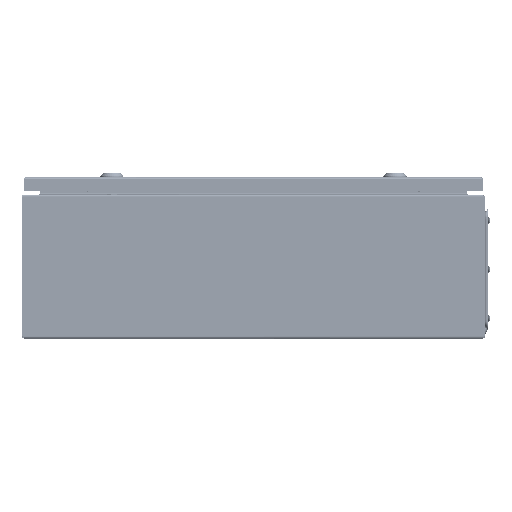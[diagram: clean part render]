
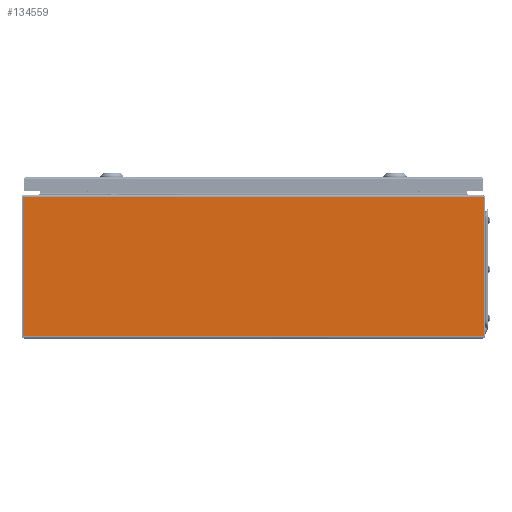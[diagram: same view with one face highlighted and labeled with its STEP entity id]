
A CAD part, left-side view. The second image highlights one B-rep face of the part: STEP entity #134559.
In plain terms, the highlighted planar face has unit normal (-1, 0, 0).
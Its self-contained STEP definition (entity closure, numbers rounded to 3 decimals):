
#2263 = VECTOR ( 'NONE', #13113, 1000. ) ;
#2727 = CARTESIAN_POINT ( 'NONE',  ( -200., 298.423, 183.85 ) ) ;
#3182 = CARTESIAN_POINT ( 'NONE',  ( -200., 298.529, 2.9 ) ) ;
#4216 = ORIENTED_EDGE ( 'NONE', *, *, #229450, .T. ) ;
#4519 = LINE ( 'NONE', #185996, #122102 ) ;
#5509 = DIRECTION ( 'NONE',  ( 0., 0., 1. ) ) ;
#6857 = EDGE_CURVE ( 'NONE', #234115, #132947, #39582, .T. ) ;
#7182 = CARTESIAN_POINT ( 'NONE',  ( -200., -298.529, 2.9 ) ) ;
#7630 = VERTEX_POINT ( 'NONE', #44802 ) ;
#13113 = DIRECTION ( 'NONE',  ( 0., 1., 0. ) ) ;
#14172 = ORIENTED_EDGE ( 'NONE', *, *, #113499, .F. ) ;
#23586 = EDGE_CURVE ( 'NONE', #130347, #139756, #227810, .T. ) ;
#24832 = EDGE_CURVE ( 'NONE', #189684, #234115, #221403, .T. ) ;
#27714 = VECTOR ( 'NONE', #187220, 1000. ) ;
#27828 = DIRECTION ( 'NONE',  ( 0., 0., -1. ) ) ;
#30150 = CARTESIAN_POINT ( 'NONE',  ( -200., 298.423, 2.9 ) ) ;
#33940 = CARTESIAN_POINT ( 'NONE',  ( -200., -3300., 183.85 ) ) ;
#35547 = VECTOR ( 'NONE', #37268, 1000. ) ;
#37268 = DIRECTION ( 'NONE',  ( 0., -1., 0. ) ) ;
#39582 = LINE ( 'NONE', #70571, #35547 ) ;
#42047 = PLANE ( 'NONE',  #231119 ) ;
#43432 = CARTESIAN_POINT ( 'NONE',  ( -200., -298.423, 183.85 ) ) ;
#44373 = DIRECTION ( 'NONE',  ( 1., 0., 0. ) ) ;
#44802 = CARTESIAN_POINT ( 'NONE',  ( -200., -298.423, 2.9 ) ) ;
#46429 = EDGE_LOOP ( 'NONE', ( #167835, #209493, #186269, #14172, #133723, #55482, #4216, #86291 ) ) ;
#48095 = LINE ( 'NONE', #95978, #27714 ) ;
#48446 = DIRECTION ( 'NONE',  ( 0., 1., 0. ) ) ;
#55482 = ORIENTED_EDGE ( 'NONE', *, *, #83870, .T. ) ;
#70571 = CARTESIAN_POINT ( 'NONE',  ( -200., 298.529, 183.85 ) ) ;
#79628 = VECTOR ( 'NONE', #107484, 1000. ) ;
#83870 = EDGE_CURVE ( 'NONE', #7630, #167771, #48095, .T. ) ;
#86291 = ORIENTED_EDGE ( 'NONE', *, *, #23586, .T. ) ;
#91222 = EDGE_CURVE ( 'NONE', #139756, #132947, #196355, .T. ) ;
#91415 = DIRECTION ( 'NONE',  ( 0., 1., 0. ) ) ;
#92406 = DIRECTION ( 'NONE',  ( 0., 0., 1. ) ) ;
#95490 = FACE_OUTER_BOUND ( 'NONE', #46429, .T. ) ;
#95978 = CARTESIAN_POINT ( 'NONE',  ( -200., -298.423, 2.9 ) ) ;
#97129 = VECTOR ( 'NONE', #5509, 1000. ) ;
#98612 = VERTEX_POINT ( 'NONE', #30150 ) ;
#103289 = CARTESIAN_POINT ( 'NONE',  ( -200., -298.529, 183.85 ) ) ;
#105368 = CARTESIAN_POINT ( 'NONE',  ( -200., 298.529, 183.85 ) ) ;
#107484 = DIRECTION ( 'NONE',  ( 0., 1., 0. ) ) ;
#113499 = EDGE_CURVE ( 'NONE', #98612, #189684, #207379, .T. ) ;
#120956 = CARTESIAN_POINT ( 'NONE',  ( -200., -298.529, 183.85 ) ) ;
#122102 = VECTOR ( 'NONE', #92406, 1000. ) ;
#130347 = VERTEX_POINT ( 'NONE', #120956 ) ;
#132947 = VERTEX_POINT ( 'NONE', #2727 ) ;
#133723 = ORIENTED_EDGE ( 'NONE', *, *, #197764, .F. ) ;
#134559 = ADVANCED_FACE ( 'NONE', ( #95490 ), #42047, .F. ) ;
#139756 = VERTEX_POINT ( 'NONE', #43432 ) ;
#148239 = CARTESIAN_POINT ( 'NONE',  ( -200., -3300., 2.9 ) ) ;
#161288 = CARTESIAN_POINT ( 'NONE',  ( -200., 298.529, 2.9 ) ) ;
#167771 = VERTEX_POINT ( 'NONE', #7182 ) ;
#167835 = ORIENTED_EDGE ( 'NONE', *, *, #91222, .T. ) ;
#185996 = CARTESIAN_POINT ( 'NONE',  ( -200., -298.529, 2.9 ) ) ;
#186269 = ORIENTED_EDGE ( 'NONE', *, *, #24832, .F. ) ;
#187220 = DIRECTION ( 'NONE',  ( 0., -1., 0. ) ) ;
#189684 = VERTEX_POINT ( 'NONE', #161288 ) ;
#191006 = VECTOR ( 'NONE', #91415, 1000. ) ;
#196355 = LINE ( 'NONE', #33940, #79628 ) ;
#197764 = EDGE_CURVE ( 'NONE', #7630, #98612, #233730, .T. ) ;
#207379 = LINE ( 'NONE', #225222, #212648 ) ;
#209179 = CARTESIAN_POINT ( 'NONE',  ( -200., -3300., 183.85 ) ) ;
#209493 = ORIENTED_EDGE ( 'NONE', *, *, #6857, .F. ) ;
#212648 = VECTOR ( 'NONE', #48446, 1000. ) ;
#221403 = LINE ( 'NONE', #3182, #97129 ) ;
#225222 = CARTESIAN_POINT ( 'NONE',  ( -200., 298.423, 2.9 ) ) ;
#227810 = LINE ( 'NONE', #103289, #2263 ) ;
#229450 = EDGE_CURVE ( 'NONE', #167771, #130347, #4519, .T. ) ;
#231119 = AXIS2_PLACEMENT_3D ( 'NONE', #209179, #44373, #27828 ) ;
#233730 = LINE ( 'NONE', #148239, #191006 ) ;
#234115 = VERTEX_POINT ( 'NONE', #105368 ) ;
